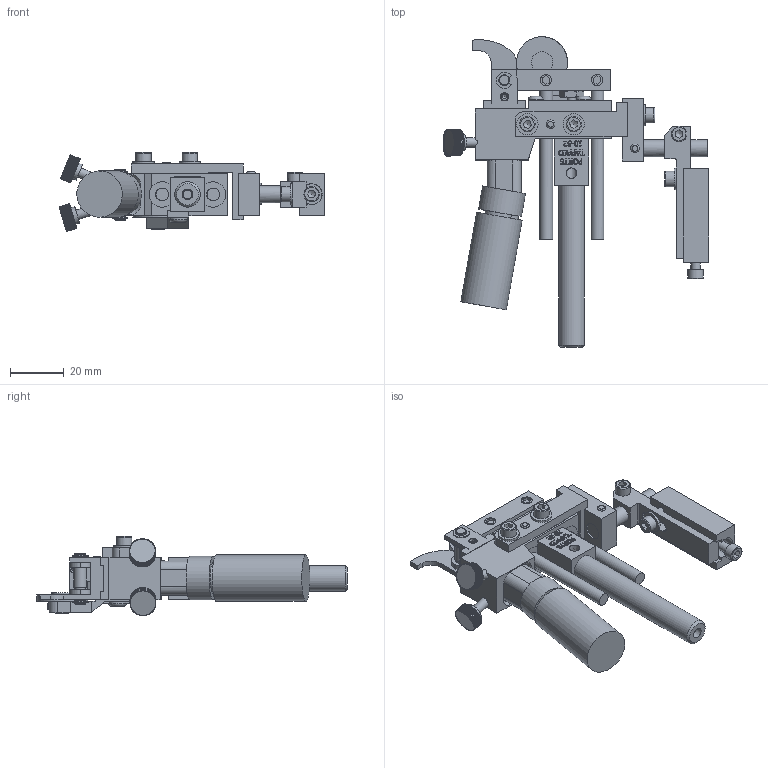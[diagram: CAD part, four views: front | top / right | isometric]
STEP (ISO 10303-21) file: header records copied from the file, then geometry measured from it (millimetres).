
FILE_DESCRIPTION((''),'2;1');
FILE_NAME('C:\Documents and Settings\Ron\My Documents\Inventor\Sprinter Drawing\Machines in Inventor\Model 22\Dot\3-sixth\Std\Brkt\Ret\Model 22 STD 3-16 dot ret w brkt.stp','2009-01-14T08:52:50',('Ron'),(''),'Autodesk Inventor 2008','Autodesk Inventor 2008','');
FILE_SCHEMA(('AUTOMOTIVE_DESIGN { 1 0 10303 214 1 1 1 1 }'));
Length unit declared in the file: inch
Products named in the file (1): Model 22 STD 3-16 dot ret w brkt
Bounding box: 99.17 x 115.84 x 29.55 mm (x, y, z)
Volume: 56534.7 mm3; surface area: 33362.1 mm2
Topology: 33 solids, 33 shells, 4737 faces, 13142 edges, 8721 vertices
Faces by surface type: plane 2891, bspline 1291, cylinder 484, cone 57, torus 14
Full cylindrical faces by diameter (mm): 2.845 x3, 2.946 x2, 3.175 x5, 3.505 x7, 3.556 x2, 3.658 x2, 3.876 x1, 3.962 x9, 4.064 x1, 4.166 x3, 4.648 x2, 4.699 x1, 4.75 x1, 4.763 x2, 4.788 x1, 5.41 x2, 5.556 x1, 5.74 x6, 6.096 x1, 6.325 x2, 6.35 x3, 6.477 x1, 6.655 x1, 7.925 x4, 7.938 x1, 8.128 x1, 9.462 x1, 9.525 x1, 10.922 x1, 11.938 x1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
Entity records: 165615 total; most frequent: CARTESIAN_POINT 49091, ORIENTED_EDGE 25710, DIRECTION 18385, EDGE_CURVE 12855, VECTOR 9061, LINE 9061, VERTEX_POINT 8614, EDGE_LOOP 5261
